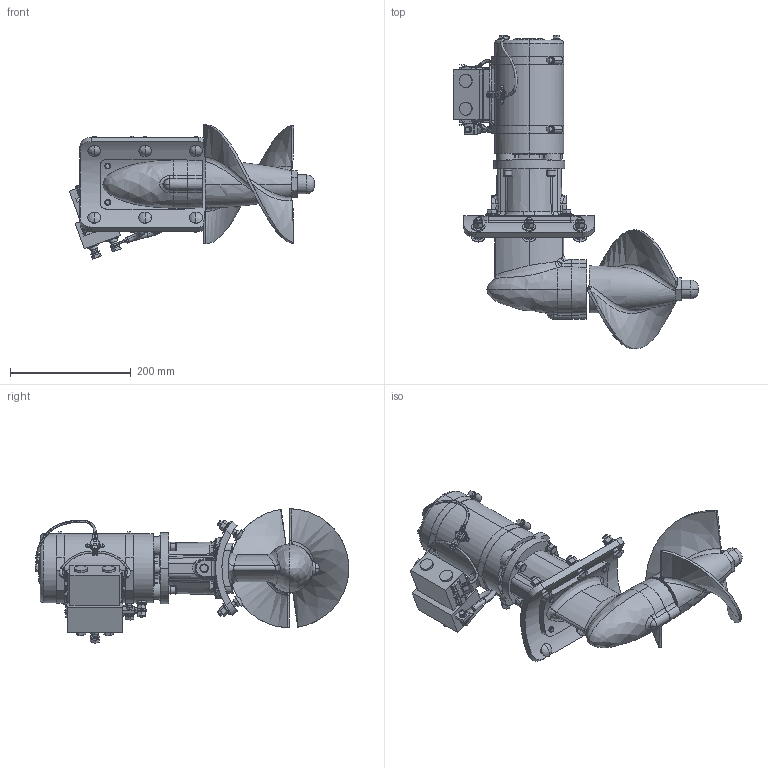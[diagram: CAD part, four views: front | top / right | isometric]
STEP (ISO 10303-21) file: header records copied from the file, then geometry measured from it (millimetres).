
FILE_DESCRIPTION (( 'STEP AP214' ), '1' );
FILE_NAME ('KP08X-E-TH_revA.STEP', '2020-10-20T20:15:57', ( '' ), ( '' ), 'SwSTEP 2.0', 'SolidWorks 2019', '' );
FILE_SCHEMA (( 'AUTOMOTIVE_DESIGN' ));
Length unit declared in the file: inch
Products named in the file (2): KP08X-E-TH_revA
Bounding box: 405.96 x 518.98 x 222.47 mm (x, y, z)
Volume: 5424504 mm3; surface area: 461904.3 mm2
Topology: 7 solids, 7 shells, 2027 faces, 5014 edges, 3085 vertices
Faces by surface type: plane 970, cylinder 513, bspline 269, cone 179, torus 90, sphere 6
Entity records: 106018 total; most frequent: CARTESIAN_POINT 60147, ORIENTED_EDGE 9940, DIRECTION 9003, EDGE_CURVE 4970, AXIS2_PLACEMENT_3D 3307, VERTEX_POINT 3085, LINE 2389, VECTOR 2389
